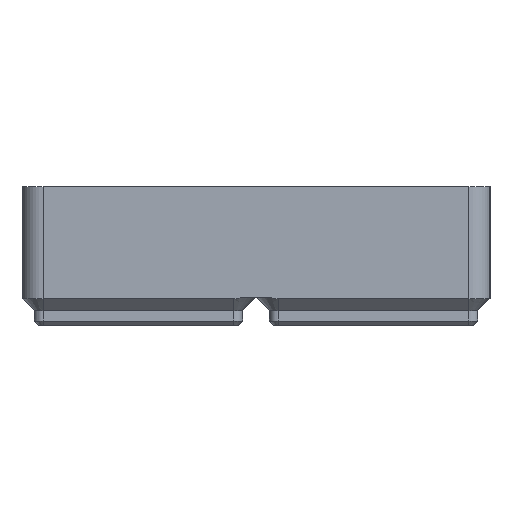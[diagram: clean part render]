
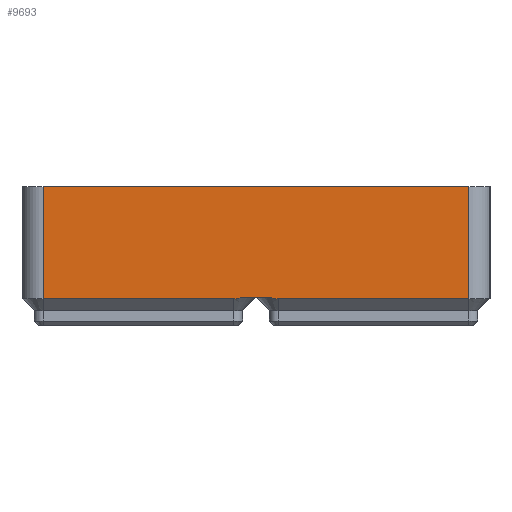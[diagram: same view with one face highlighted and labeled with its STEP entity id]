
A CAD part, left-side view. The second image highlights one B-rep face of the part: STEP entity #9693.
In plain terms, the highlighted planar face has unit normal (-1, 0, 0).
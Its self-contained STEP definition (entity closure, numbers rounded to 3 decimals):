
#121=(
BOUNDED_CURVE()
B_SPLINE_CURVE(2,(#14780,#14781,#14782),.UNSPECIFIED.,.F.,.F.)
B_SPLINE_CURVE_WITH_KNOTS((3,3),(0.,0.141),.UNSPECIFIED.)
CURVE()
GEOMETRIC_REPRESENTATION_ITEM()
RATIONAL_B_SPLINE_CURVE((1.,1.033,1.033))
REPRESENTATION_ITEM('')
);
#126=(
BOUNDED_CURVE()
B_SPLINE_CURVE(2,(#15041,#15042,#15043),.UNSPECIFIED.,.F.,.F.)
B_SPLINE_CURVE_WITH_KNOTS((3,3),(0.141,0.283),
 .UNSPECIFIED.)
CURVE()
GEOMETRIC_REPRESENTATION_ITEM()
RATIONAL_B_SPLINE_CURVE((1.033,1.033,1.))
REPRESENTATION_ITEM('')
);
#232=PLANE('',#10465);
#770=FACE_OUTER_BOUND('',#1407,.T.);
#1407=EDGE_LOOP('',(#7205,#7206,#7207,#7208,#7209,#7210,#7211,#7212));
#2324=LINE('',#14341,#3267);
#2326=LINE('',#14350,#3269);
#2472=LINE('',#14776,#3415);
#2552=LINE('',#15024,#3495);
#2586=LINE('',#15120,#3529);
#2591=LINE('',#15133,#3534);
#3267=VECTOR('',#11262,10.);
#3269=VECTOR('',#11270,10.);
#3415=VECTOR('',#11706,10.);
#3495=VECTOR('',#11968,10.);
#3529=VECTOR('',#12070,10.);
#3534=VECTOR('',#12083,10.);
#4211=VERTEX_POINT('',#14338);
#4212=VERTEX_POINT('',#14340);
#4215=VERTEX_POINT('',#14347);
#4216=VERTEX_POINT('',#14349);
#4336=VERTEX_POINT('',#14775);
#4337=VERTEX_POINT('',#14779);
#4398=VERTEX_POINT('',#15022);
#4403=VERTEX_POINT('',#15040);
#5035=EDGE_CURVE('',#4211,#4212,#2324,.T.);
#5039=EDGE_CURVE('',#4215,#4216,#2326,.T.);
#5246=EDGE_CURVE('',#4336,#4211,#2472,.T.);
#5248=EDGE_CURVE('',#4337,#4336,#121,.T.);
#5366=EDGE_CURVE('',#4337,#4398,#2552,.T.);
#5374=EDGE_CURVE('',#4403,#4398,#126,.T.);
#5413=EDGE_CURVE('',#4216,#4403,#2586,.T.);
#5419=EDGE_CURVE('',#4215,#4212,#2591,.T.);
#7205=ORIENTED_EDGE('',*,*,#5039,.F.);
#7206=ORIENTED_EDGE('',*,*,#5419,.T.);
#7207=ORIENTED_EDGE('',*,*,#5035,.F.);
#7208=ORIENTED_EDGE('',*,*,#5246,.F.);
#7209=ORIENTED_EDGE('',*,*,#5248,.F.);
#7210=ORIENTED_EDGE('',*,*,#5366,.T.);
#7211=ORIENTED_EDGE('',*,*,#5374,.F.);
#7212=ORIENTED_EDGE('',*,*,#5413,.F.);
#9693=ADVANCED_FACE('',(#770),#232,.T.);
#10465=AXIS2_PLACEMENT_3D('',#15132,#12081,#12082);
#11262=DIRECTION('',(0.,0.,1.));
#11270=DIRECTION('',(0.,0.,-1.));
#11706=DIRECTION('',(0.,1.,0.));
#11968=DIRECTION('',(0.,-1.,0.));
#12070=DIRECTION('',(0.,1.,0.));
#12081=DIRECTION('center_axis',(-1.,0.,0.));
#12082=DIRECTION('ref_axis',(0.,-1.,0.));
#12083=DIRECTION('',(0.,1.,0.));
#14338=CARTESIAN_POINT('',(0.,79.75,-0.25));
#14340=CARTESIAN_POINT('',(0.,79.75,19.8));
#14341=CARTESIAN_POINT('',(0.,79.75,0.));
#14347=CARTESIAN_POINT('',(0.,3.75,19.8));
#14349=CARTESIAN_POINT('',(0.,3.75,-0.25));
#14350=CARTESIAN_POINT('',(0.,3.75,0.));
#14775=CARTESIAN_POINT('',(0.,45.75,-0.25));
#14776=CARTESIAN_POINT('',(0.,28.,-0.25));
#14779=CARTESIAN_POINT('',(0.,44.358,0.));
#14780=CARTESIAN_POINT('Ctrl Pts',(0.,44.358,
0.));
#14781=CARTESIAN_POINT('Ctrl Pts',(0.,45.076,
-0.25));
#14782=CARTESIAN_POINT('Ctrl Pts',(0.,45.75,-0.25));
#15022=CARTESIAN_POINT('',(0.,39.142,0.));
#15024=CARTESIAN_POINT('',(0.,83.5,0.));
#15040=CARTESIAN_POINT('',(0.,37.75,-0.25));
#15041=CARTESIAN_POINT('Ctrl Pts',(0.,37.75,-0.25));
#15042=CARTESIAN_POINT('Ctrl Pts',(0.,38.424,
-0.25));
#15043=CARTESIAN_POINT('Ctrl Pts',(0.,39.142,
0.));
#15120=CARTESIAN_POINT('',(0.,7.,-0.25));
#15132=CARTESIAN_POINT('Origin',(0.,83.5,0.));
#15133=CARTESIAN_POINT('',(0.,62.625,19.8));
